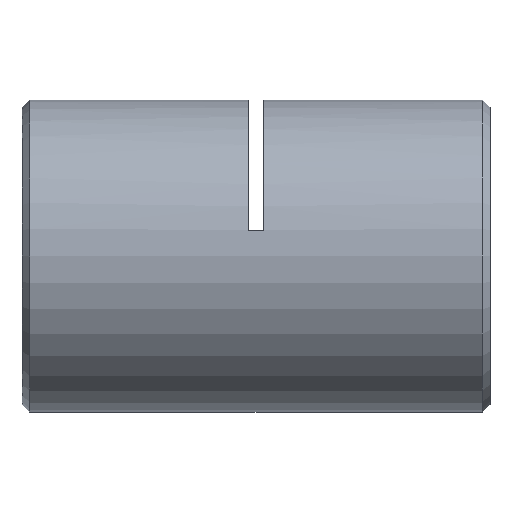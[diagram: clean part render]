
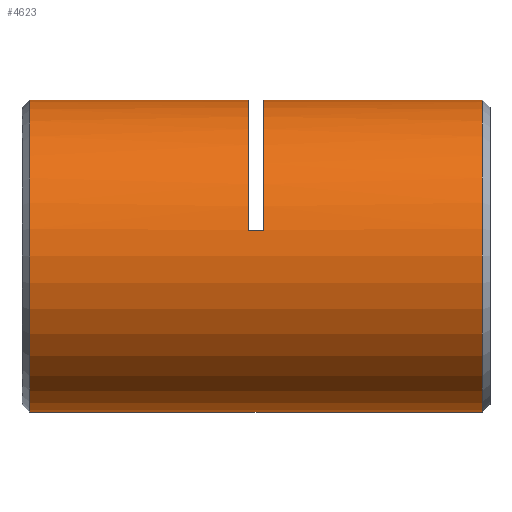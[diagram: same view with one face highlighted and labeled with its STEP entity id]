
A CAD part, left-side view. The second image highlights one B-rep face of the part: STEP entity #4623.
In plain terms, the highlighted cylindrical face has radius 10 mm (diameter 20 mm), a partial arc.
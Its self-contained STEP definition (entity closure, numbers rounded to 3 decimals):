
#305 = VERTEX_POINT ( 'NONE', #2755 ) ;
#499 = LINE ( 'NONE', #2840, #5506 ) ;
#616 = CARTESIAN_POINT ( 'NONE',  ( 0., 14.75, 0. ) ) ;
#842 = CARTESIAN_POINT ( 'NONE',  ( 0., 29.75, -10. ) ) ;
#868 = VERTEX_POINT ( 'NONE', #5211 ) ;
#881 = VECTOR ( 'NONE', #3689, 1000. ) ;
#935 = ORIENTED_EDGE ( 'NONE', *, *, #3448, .F. ) ;
#966 = CARTESIAN_POINT ( 'NONE',  ( -9.86, 14.75, 1.667 ) ) ;
#989 = VERTEX_POINT ( 'NONE', #4901 ) ;
#992 = VECTOR ( 'NONE', #5051, 1000. ) ;
#1002 = CIRCLE ( 'NONE', #5288, 10. ) ;
#1034 = CIRCLE ( 'NONE', #2657, 10. ) ;
#1040 = DIRECTION ( 'NONE',  ( 0., 1., 0. ) ) ;
#1096 = ORIENTED_EDGE ( 'NONE', *, *, #3586, .T. ) ;
#1140 = CIRCLE ( 'NONE', #2602, 10. ) ;
#1270 = EDGE_CURVE ( 'NONE', #2746, #1279, #1034, .T. ) ;
#1279 = VERTEX_POINT ( 'NONE', #3004 ) ;
#1329 = VECTOR ( 'NONE', #5224, 1000. ) ;
#1460 = CARTESIAN_POINT ( 'NONE',  ( 0., 0., 0. ) ) ;
#1537 = CIRCLE ( 'NONE', #1675, 10. ) ;
#1619 = ORIENTED_EDGE ( 'NONE', *, *, #1906, .T. ) ;
#1675 = AXIS2_PLACEMENT_3D ( 'NONE', #616, #1040, #4677 ) ;
#1678 = CARTESIAN_POINT ( 'NONE',  ( 0., 0., 10. ) ) ;
#1830 = VERTEX_POINT ( 'NONE', #966 ) ;
#1876 = CARTESIAN_POINT ( 'NONE',  ( -9.86, 15.25, 1.667 ) ) ;
#1894 = LINE ( 'NONE', #3760, #992 ) ;
#1906 = EDGE_CURVE ( 'NONE', #1830, #2648, #5655, .T. ) ;
#1950 = DIRECTION ( 'NONE',  ( 0., 0., 1. ) ) ;
#1997 = CARTESIAN_POINT ( 'NONE',  ( 0., 29.75, 0. ) ) ;
#2119 = CARTESIAN_POINT ( 'NONE',  ( 0., 15.75, 0. ) ) ;
#2170 = VERTEX_POINT ( 'NONE', #842 ) ;
#2280 = DIRECTION ( 'NONE',  ( 0., 1., 0. ) ) ;
#2422 = CARTESIAN_POINT ( 'NONE',  ( 0., 0.75, -10. ) ) ;
#2564 = AXIS2_PLACEMENT_3D ( 'NONE', #1460, #4183, #1950 ) ;
#2602 = AXIS2_PLACEMENT_3D ( 'NONE', #1997, #5115, #5136 ) ;
#2648 = VERTEX_POINT ( 'NONE', #3622 ) ;
#2657 = AXIS2_PLACEMENT_3D ( 'NONE', #4953, #2280, #5410 ) ;
#2729 = DIRECTION ( 'NONE',  ( 0., 1., 0. ) ) ;
#2746 = VERTEX_POINT ( 'NONE', #2422 ) ;
#2755 = CARTESIAN_POINT ( 'NONE',  ( 0., 15.75, 10. ) ) ;
#2840 = CARTESIAN_POINT ( 'NONE',  ( 0., 0., -10. ) ) ;
#2961 = DIRECTION ( 'NONE',  ( 0., 1., 0. ) ) ;
#3004 = CARTESIAN_POINT ( 'NONE',  ( 0., 0.75, 10. ) ) ;
#3264 = CYLINDRICAL_SURFACE ( 'NONE', #2564, 10. ) ;
#3301 = ORIENTED_EDGE ( 'NONE', *, *, #3833, .T. ) ;
#3448 = EDGE_CURVE ( 'NONE', #2746, #2170, #499, .T. ) ;
#3478 = DIRECTION ( 'NONE',  ( 0., 0., 1. ) ) ;
#3529 = LINE ( 'NONE', #1678, #1329 ) ;
#3586 = EDGE_CURVE ( 'NONE', #2648, #305, #1002, .T. ) ;
#3622 = CARTESIAN_POINT ( 'NONE',  ( -9.86, 15.75, 1.667 ) ) ;
#3689 = DIRECTION ( 'NONE',  ( 0., 1., 0. ) ) ;
#3698 = ORIENTED_EDGE ( 'NONE', *, *, #4519, .T. ) ;
#3760 = CARTESIAN_POINT ( 'NONE',  ( 0., 0., 10. ) ) ;
#3833 = EDGE_CURVE ( 'NONE', #868, #2170, #1140, .T. ) ;
#4183 = DIRECTION ( 'NONE',  ( 0., 1., 0. ) ) ;
#4431 = EDGE_LOOP ( 'NONE', ( #935, #5319, #5766, #5415, #1619, #1096, #3698, #3301 ) ) ;
#4519 = EDGE_CURVE ( 'NONE', #305, #868, #1894, .T. ) ;
#4623 = ADVANCED_FACE ( 'NONE', ( #5056 ), #3264, .T. ) ;
#4677 = DIRECTION ( 'NONE',  ( 0., 0., 1. ) ) ;
#4854 = EDGE_CURVE ( 'NONE', #1830, #989, #1537, .T. ) ;
#4901 = CARTESIAN_POINT ( 'NONE',  ( 0., 14.75, 10. ) ) ;
#4953 = CARTESIAN_POINT ( 'NONE',  ( 0., 0.75, 0. ) ) ;
#5051 = DIRECTION ( 'NONE',  ( 0., 1., 0. ) ) ;
#5056 = FACE_OUTER_BOUND ( 'NONE', #4431, .T. ) ;
#5115 = DIRECTION ( 'NONE',  ( 0., -1., 0. ) ) ;
#5136 = DIRECTION ( 'NONE',  ( 0., 0., -1. ) ) ;
#5211 = CARTESIAN_POINT ( 'NONE',  ( 0., 29.75, 10. ) ) ;
#5224 = DIRECTION ( 'NONE',  ( 0., 1., 0. ) ) ;
#5288 = AXIS2_PLACEMENT_3D ( 'NONE', #2119, #2729, #3478 ) ;
#5319 = ORIENTED_EDGE ( 'NONE', *, *, #1270, .T. ) ;
#5410 = DIRECTION ( 'NONE',  ( 0., 0., 1. ) ) ;
#5414 = EDGE_CURVE ( 'NONE', #1279, #989, #3529, .T. ) ;
#5415 = ORIENTED_EDGE ( 'NONE', *, *, #4854, .F. ) ;
#5506 = VECTOR ( 'NONE', #2961, 1000. ) ;
#5655 = LINE ( 'NONE', #1876, #881 ) ;
#5766 = ORIENTED_EDGE ( 'NONE', *, *, #5414, .T. ) ;
